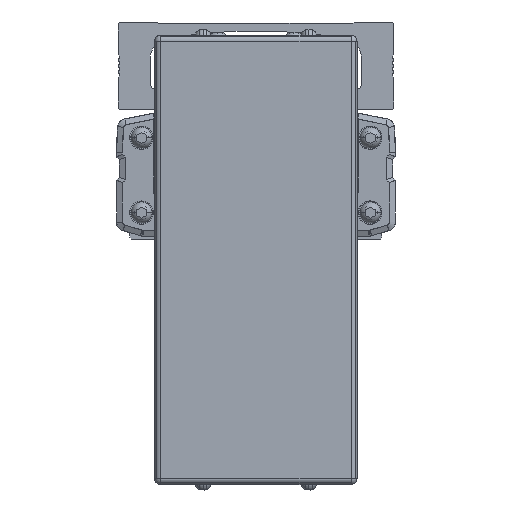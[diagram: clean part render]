
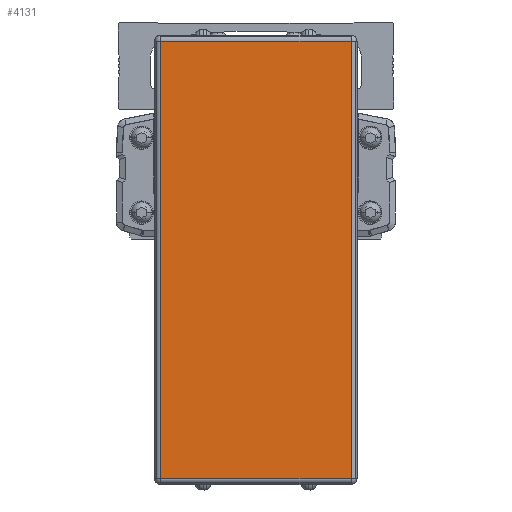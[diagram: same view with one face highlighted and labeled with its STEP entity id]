
A CAD part, front view. The second image highlights one B-rep face of the part: STEP entity #4131.
In plain terms, the highlighted planar face has unit normal (0, -1, 0).
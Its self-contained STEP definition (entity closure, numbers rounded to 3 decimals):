
#4131=ADVANCED_FACE('',(#9272),#9273,.T.);
#9272=FACE_OUTER_BOUND('',#16421,.T.);
#9273=PLANE('',#16422);
#16421=EDGE_LOOP('',(#28696,#28697,#28698,#28699));
#16422=AXIS2_PLACEMENT_3D('',#28700,#28701,#28702);
#28696=ORIENTED_EDGE('',*,*,#39775,.F.);
#28697=ORIENTED_EDGE('',*,*,#43342,.F.);
#28698=ORIENTED_EDGE('',*,*,#43184,.F.);
#28699=ORIENTED_EDGE('',*,*,#42842,.F.);
#28700=CARTESIAN_POINT('',(0.,-14.778,-50.1));
#28701=DIRECTION('',(0.0,-1.0,0.));
#28702=DIRECTION('',(1.0,0.0,0.0));
#39775=EDGE_CURVE('',#47455,#47457,#47458,.T.);
#42842=EDGE_CURVE('',#47457,#52382,#52383,.T.);
#43184=EDGE_CURVE('',#52382,#49370,#52863,.T.);
#43342=EDGE_CURVE('',#49370,#47455,#53085,.T.);
#47455=VERTEX_POINT('',#58586);
#47457=VERTEX_POINT('',#58588);
#47458=LINE('',#58589,#58590);
#49370=VERTEX_POINT('',#61270);
#52382=VERTEX_POINT('',#66094);
#52383=LINE('',#66095,#66096);
#52863=LINE('',#66861,#66862);
#53085=LINE('',#67193,#67194);
#58586=CARTESIAN_POINT('',(32.5,-14.778,24.5));
#58588=CARTESIAN_POINT('',(32.5,-14.778,-124.7));
#58589=CARTESIAN_POINT('',(32.5,-14.778,-50.1));
#58590=VECTOR('',#73802,10.0);
#61270=CARTESIAN_POINT('',(-32.5,-14.778,24.5));
#66094=CARTESIAN_POINT('',(-32.5,-14.778,-124.7));
#66095=CARTESIAN_POINT('',(0.,-14.778,-124.7));
#66096=VECTOR('',#77369,10.0);
#66861=CARTESIAN_POINT('',(-32.5,-14.778,-50.1));
#66862=VECTOR('',#77769,10.0);
#67193=CARTESIAN_POINT('',(0.,-14.778,24.5));
#67194=VECTOR('',#77955,10.0);
#73802=DIRECTION('',(0.0,0.,-1.0));
#77369=DIRECTION('',(-1.0,0.0,0.0));
#77769=DIRECTION('',(0.0,0.,1.0));
#77955=DIRECTION('',(1.0,0.0,0.0));
